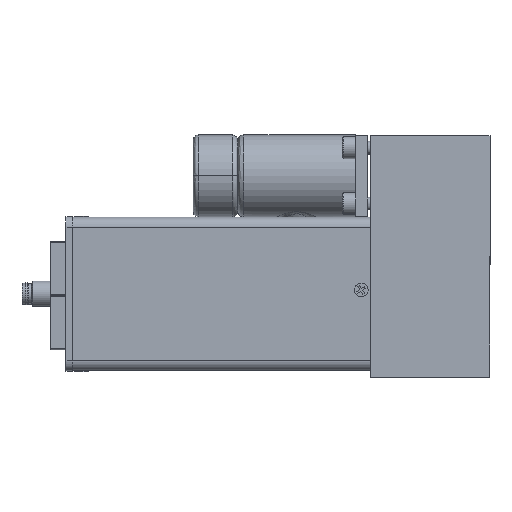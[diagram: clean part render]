
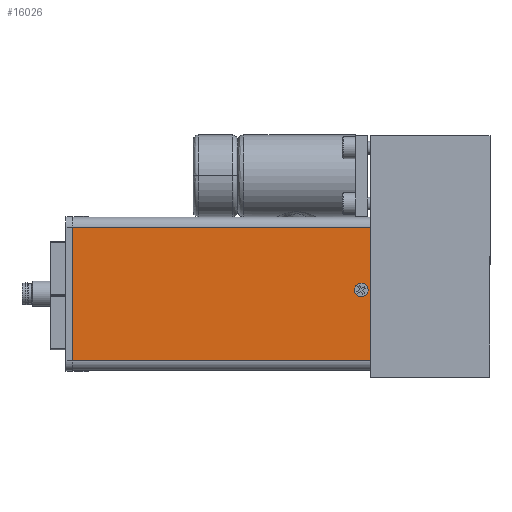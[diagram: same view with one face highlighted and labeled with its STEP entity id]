
A CAD part, front view. The second image highlights one B-rep face of the part: STEP entity #16026.
In plain terms, the highlighted planar face has unit normal (0, -1, 0).
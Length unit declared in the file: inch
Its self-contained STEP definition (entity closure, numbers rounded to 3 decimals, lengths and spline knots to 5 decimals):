
#1825 = DIRECTION ( 'NONE',  ( 0., 1., 0. ) ) ;
#7960 = VECTOR ( 'NONE', #17219, 39.37008 ) ;
#8092 = EDGE_CURVE ( 'NONE', #35649, #84012, #82817, .T. ) ;
#8970 = CARTESIAN_POINT ( 'NONE',  ( -2.41805, 0.83778, -0.642 ) ) ;
#9726 = PLANE ( 'NONE',  #30643 ) ;
#10798 = ORIENTED_EDGE ( 'NONE', *, *, #80379, .T. ) ;
#13944 = VERTEX_POINT ( 'NONE', #29084 ) ;
#14348 = ORIENTED_EDGE ( 'NONE', *, *, #32767, .T. ) ;
#14819 = ORIENTED_EDGE ( 'NONE', *, *, #38818, .T. ) ;
#15988 = VECTOR ( 'NONE', #38200, 39.37008 ) ;
#16026 = ADVANCED_FACE ( 'NONE', ( #82758, #29161 ), #9726, .T. ) ;
#17219 = DIRECTION ( 'NONE',  ( 0., 0., -1. ) ) ;
#18383 = VERTEX_POINT ( 'NONE', #73076 ) ;
#21206 = CARTESIAN_POINT ( 'NONE',  ( 1.17848, 0.83778, -1.42276 ) ) ;
#24868 = AXIS2_PLACEMENT_3D ( 'NONE', #62296, #1825, #49006 ) ;
#25433 = ORIENTED_EDGE ( 'NONE', *, *, #77275, .T. ) ;
#26179 = VERTEX_POINT ( 'NONE', #8970 ) ;
#26278 = CIRCLE ( 'NONE', #24868, 0.06299 ) ;
#26998 = CARTESIAN_POINT ( 'NONE',  ( 1.29648, 0.83778, -0.642 ) ) ;
#29084 = CARTESIAN_POINT ( 'NONE',  ( 1.11549, 0.83778, -1.42276 ) ) ;
#29161 = FACE_BOUND ( 'NONE', #41675, .T. ) ;
#30643 = AXIS2_PLACEMENT_3D ( 'NONE', #84494, #66532, #39609 ) ;
#31218 = CARTESIAN_POINT ( 'NONE',  ( 1.29648, 0.83778, -2.298 ) ) ;
#32767 = EDGE_CURVE ( 'NONE', #84012, #26179, #78616, .T. ) ;
#34779 = DIRECTION ( 'NONE',  ( 0., 1., 0. ) ) ;
#35122 = VECTOR ( 'NONE', #41086, 39.37008 ) ;
#35649 = VERTEX_POINT ( 'NONE', #69825 ) ;
#37413 = ORIENTED_EDGE ( 'NONE', *, *, #79851, .T. ) ;
#38200 = DIRECTION ( 'NONE',  ( 1., 0., 0. ) ) ;
#38818 = EDGE_CURVE ( 'NONE', #13944, #83170, #50949, .T. ) ;
#39609 = DIRECTION ( 'NONE',  ( 1., 0., 0. ) ) ;
#41086 = DIRECTION ( 'NONE',  ( 0., 0., 1. ) ) ;
#41675 = EDGE_LOOP ( 'NONE', ( #14819, #37413 ) ) ;
#41757 = DIRECTION ( 'NONE',  ( -1., 0., 0. ) ) ;
#49006 = DIRECTION ( 'NONE',  ( -1., 0., 0. ) ) ;
#50565 = LINE ( 'NONE', #77392, #7960 ) ;
#50949 = CIRCLE ( 'NONE', #76169, 0.06299 ) ;
#61255 = ORIENTED_EDGE ( 'NONE', *, *, #8092, .T. ) ;
#62296 = CARTESIAN_POINT ( 'NONE',  ( 1.17848, 0.83778, -1.42276 ) ) ;
#64153 = DIRECTION ( 'NONE',  ( -1., 0., 0. ) ) ;
#65762 = EDGE_LOOP ( 'NONE', ( #10798, #25433, #61255, #14348 ) ) ;
#66532 = DIRECTION ( 'NONE',  ( 0., -1., 0. ) ) ;
#69825 = CARTESIAN_POINT ( 'NONE',  ( 1.29648, 0.83778, -2.298 ) ) ;
#70510 = CARTESIAN_POINT ( 'NONE',  ( 1.24147, 0.83778, -1.42276 ) ) ;
#73076 = CARTESIAN_POINT ( 'NONE',  ( -2.41805, 0.83778, -2.298 ) ) ;
#73644 = VECTOR ( 'NONE', #64153, 39.37008 ) ;
#75809 = CARTESIAN_POINT ( 'NONE',  ( 1.29648, 0.83778, -1.47 ) ) ;
#76169 = AXIS2_PLACEMENT_3D ( 'NONE', #21206, #34779, #41757 ) ;
#77275 = EDGE_CURVE ( 'NONE', #18383, #35649, #78685, .T. ) ;
#77392 = CARTESIAN_POINT ( 'NONE',  ( -2.41805, 0.83778, -1.47 ) ) ;
#78616 = LINE ( 'NONE', #85598, #73644 ) ;
#78685 = LINE ( 'NONE', #31218, #15988 ) ;
#79851 = EDGE_CURVE ( 'NONE', #83170, #13944, #26278, .T. ) ;
#80379 = EDGE_CURVE ( 'NONE', #26179, #18383, #50565, .T. ) ;
#82758 = FACE_OUTER_BOUND ( 'NONE', #65762, .T. ) ;
#82817 = LINE ( 'NONE', #75809, #35122 ) ;
#83170 = VERTEX_POINT ( 'NONE', #70510 ) ;
#84012 = VERTEX_POINT ( 'NONE', #26998 ) ;
#84494 = CARTESIAN_POINT ( 'NONE',  ( 1.29648, 0.83778, -1.47 ) ) ;
#85598 = CARTESIAN_POINT ( 'NONE',  ( 1.29648, 0.83778, -0.642 ) ) ;
